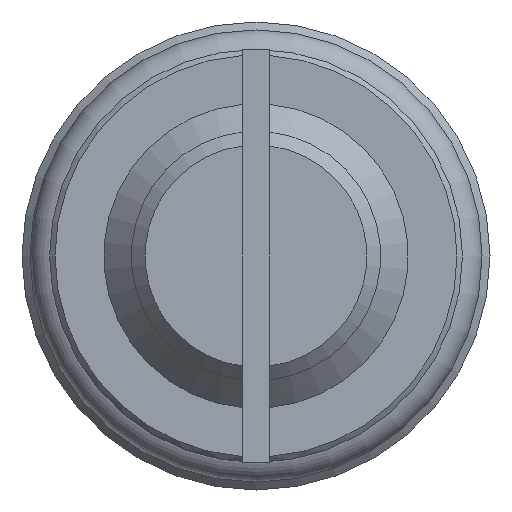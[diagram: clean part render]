
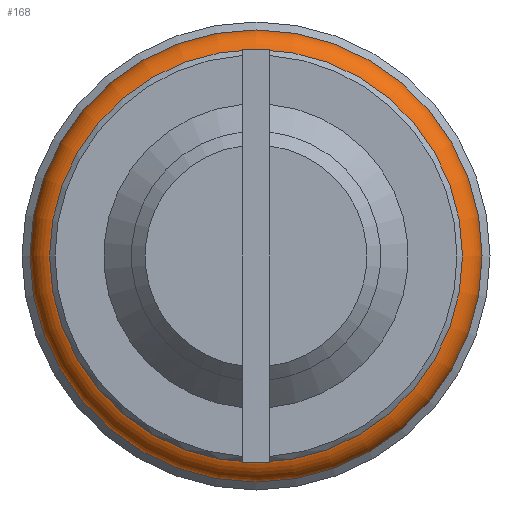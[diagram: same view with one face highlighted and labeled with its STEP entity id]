
A CAD part, left-side view. The second image highlights one B-rep face of the part: STEP entity #168.
In plain terms, the highlighted toroidal (fillet/blend) face has major radius 7.214 mm and minor radius 1 mm.
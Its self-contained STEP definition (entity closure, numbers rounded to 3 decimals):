
#168 = ADVANCED_FACE( '', ( #349, #350, #351 ), #352, .T. );
#349 = FACE_BOUND( '', #530, .T. );
#350 = FACE_OUTER_BOUND( '', #531, .T. );
#351 = FACE_OUTER_BOUND( '', #532, .T. );
#352 = TOROIDAL_SURFACE( '', #533, 7.214, 1. );
#530 = VERTEX_LOOP( '', #942 );
#531 = EDGE_LOOP( '', ( #943 ) );
#532 = EDGE_LOOP( '', ( #944 ) );
#533 = AXIS2_PLACEMENT_3D( '', #945, #946, #947 );
#942 = VERTEX_POINT( '', #1145 );
#943 = ORIENTED_EDGE( '', *, *, #1120, .T. );
#944 = ORIENTED_EDGE( '', *, *, #1146, .F. );
#945 = CARTESIAN_POINT( '', ( 3.5, 0., 0. ) );
#946 = DIRECTION( '', ( 1., 0., 0. ) );
#947 = DIRECTION( '', ( 0., 0., -1. ) );
#1120 = EDGE_CURVE( '', #1361, #1361, #1362, .T. );
#1145 = CARTESIAN_POINT( '', ( 3.5, 0., -8.214 ) );
#1146 = EDGE_CURVE( '', #1387, #1387, #1388, .T. );
#1361 = VERTEX_POINT( '', #1703 );
#1362 = CIRCLE( '', #1704, 6.507 );
#1387 = VERTEX_POINT( '', #1741 );
#1388 = CIRCLE( '', #1742, 7.214 );
#1703 = CARTESIAN_POINT( '', ( 2.793, 0., -6.507 ) );
#1704 = AXIS2_PLACEMENT_3D( '', #1891, #1892, #1893 );
#1741 = CARTESIAN_POINT( '', ( 4.5, 0., -7.214 ) );
#1742 = AXIS2_PLACEMENT_3D( '', #1907, #1908, #1909 );
#1891 = CARTESIAN_POINT( '', ( 2.793, 0., 0. ) );
#1892 = DIRECTION( '', ( 1., 0., 0. ) );
#1893 = DIRECTION( '', ( 0., 0., -1. ) );
#1907 = CARTESIAN_POINT( '', ( 4.5, 0., 0. ) );
#1908 = DIRECTION( '', ( 1., 0., 0. ) );
#1909 = DIRECTION( '', ( 0., 0., -1. ) );
